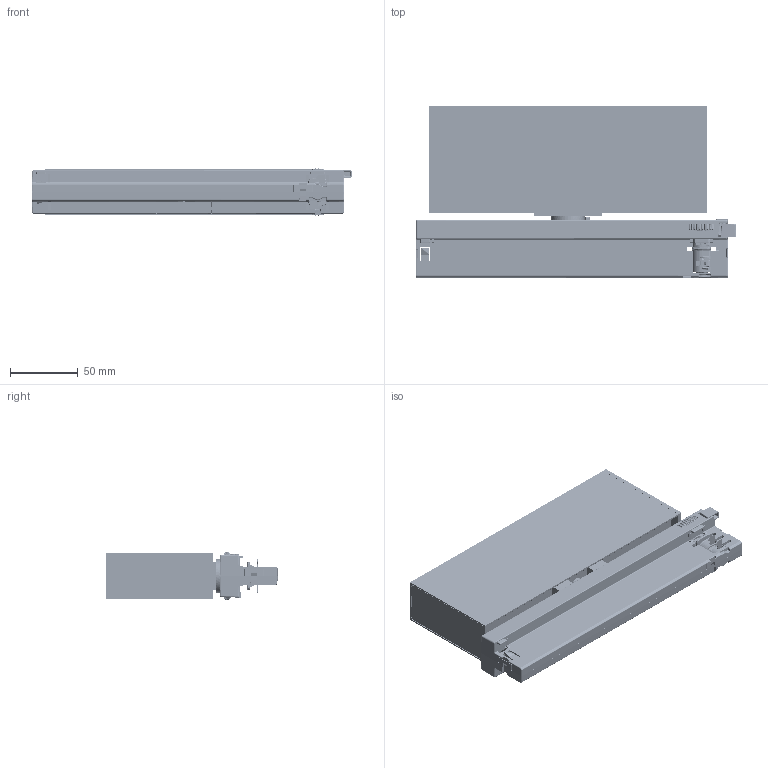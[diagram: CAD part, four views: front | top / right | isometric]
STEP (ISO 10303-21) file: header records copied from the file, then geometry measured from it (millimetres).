
FILE_DESCRIPTION(/* description */ (''),/* implementation_level */ '2;1');
FILE_NAME(/* name */ 'C:\Users\quotes\OneDrive - M LIGHT PTY LTD\Documents\Inventor\Projects\Mlight Projects Team\ENGINEERING - CAD\Favors\Akhila\Track Step File\Evelo 8\mLight Evelo 8 Track Mounted_Simplify_1.stp',/* time_stamp */ '2024-06-03T16:06:44+10:00',/* author */ ('quotes'),/* organization */ (''),/* preprocessor_version */ 'ST-DEVELOPER v18.1',/* originating_system */ 'Autodesk Inventor 2022',/* authorisation */ '');
FILE_SCHEMA (('AUTOMOTIVE_DESIGN { 1 0 10303 214 3 1 1 }'));
Products named in the file (1): mLight Evelo 8 Track Mounted_Simplify_1
Bounding box: 236.89 x 126.57 x 34.99 mm (x, y, z)
Volume: 294754.7 mm3; surface area: 294070.7 mm2
Topology: 5 solids, 5 shells, 9467 faces, 26824 edges, 17027 vertices
Faces by surface type: plane 4023, cylinder 2763, bspline 1652, cone 457, torus 329, sphere 243
Full cylindrical faces by diameter (mm): 0.376 x3, 0.843 x2, 0.85 x6, 0.9 x4, 1.1 x4, 1.414 x4, 1.478 x2, 1.5 x1, 1.6 x3, 1.7 x4, 1.97 x2, 2 x3, 2.1 x2, 2.16 x2, 2.167 x4, 2.463 x2, 2.5 x6, 2.8 x5, 2.956 x3, 3 x5, 3.076 x2, 3.108 x2, 3.3 x6, 3.972 x2, 4 x4, 4.5 x6, 5.2 x1, 5.6 x1, 6 x1, 6.8 x1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
Entity records: 614786 total; most frequent: CARTESIAN_POINT 370946, ORIENTED_EDGE 53478, DIRECTION 43876, EDGE_CURVE 26739, VERTEX_POINT 17019, AXIS2_PLACEMENT_3D 15262, LINE 13352, VECTOR 13352
